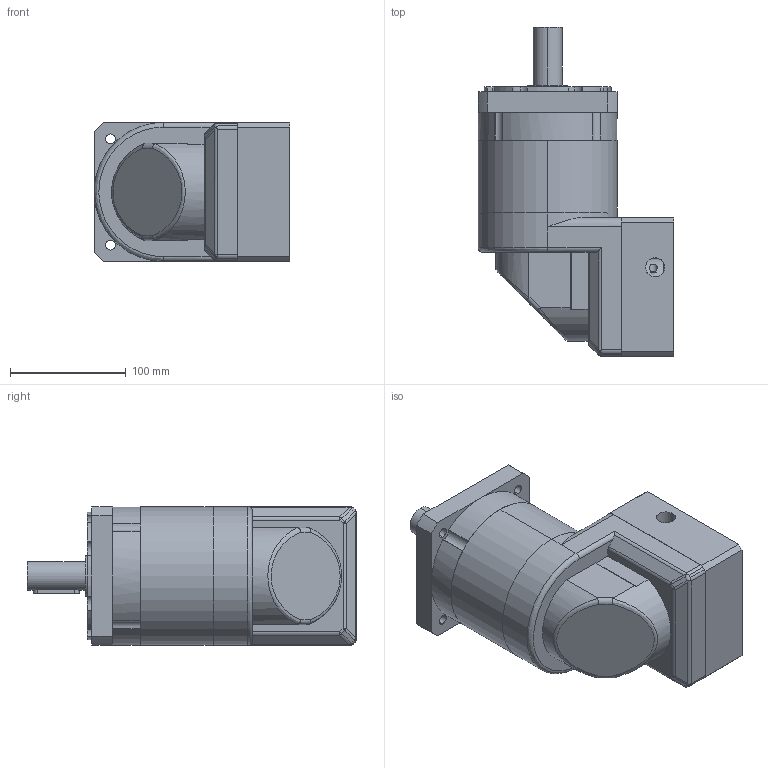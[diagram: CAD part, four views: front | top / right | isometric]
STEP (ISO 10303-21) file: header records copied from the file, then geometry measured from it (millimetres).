
FILE_DESCRIPTION (( 'STEP AP203' ), '1' );
FILE_NAME ('PVFA120-L2-24-110-145.STEP', '2026-09-18T03:59:59', ( 'Windows User' ), ( 'P R C' ), 'SwSTEP 2.0', 'SolidWorks 2016', '' );
FILE_SCHEMA (( 'CONFIG_CONTROL_DESIGN' ));
Length unit declared in the file: millimetre
Products named in the file (9): 粣創-3207A 35x72x27_2; PVFA120-L2-24-110-145; PVFA120-眊极陔; PVFA120 內齿圈-优化_二级内齿圈; PVFA120 奻屳唳; PVFA120-蟀諉啣; PVFA120-薊粣ん-24; 螺釘範本 M8x20; 邧埴瑩 8x7x40
Assembly tree (8 placements, depth 2):
  PVFA120-L2-24-110-145
    PVFA120-眊极陔
    PVFA120 內齿圈-优化_二级内齿圈
    PVFA120 奻屳唳
    PVFA120-蟀諉啣
    PVFA120-薊粣ん-24
    螺釘範本 M8x20
    邧埴瑩 8x7x40
    粣創-3207A 35x72x27_2
Bounding box: 169 x 284.5 x 120 mm (x, y, z)
Volume: 2738745.3 mm3; surface area: 319173.7 mm2
Topology: 8 solids, 16 shells, 1227 faces, 3342 edges, 2191 vertices
Faces by surface type: plane 664, bspline 277, cylinder 258, cone 28
Entity records: 49079 total; most frequent: CARTESIAN_POINT 18700, ORIENTED_EDGE 6640, DIRECTION 5308, EDGE_CURVE 3320, VERTEX_POINT 2191, LINE 1936, VECTOR 1936, AXIS2_PLACEMENT_3D 1686
